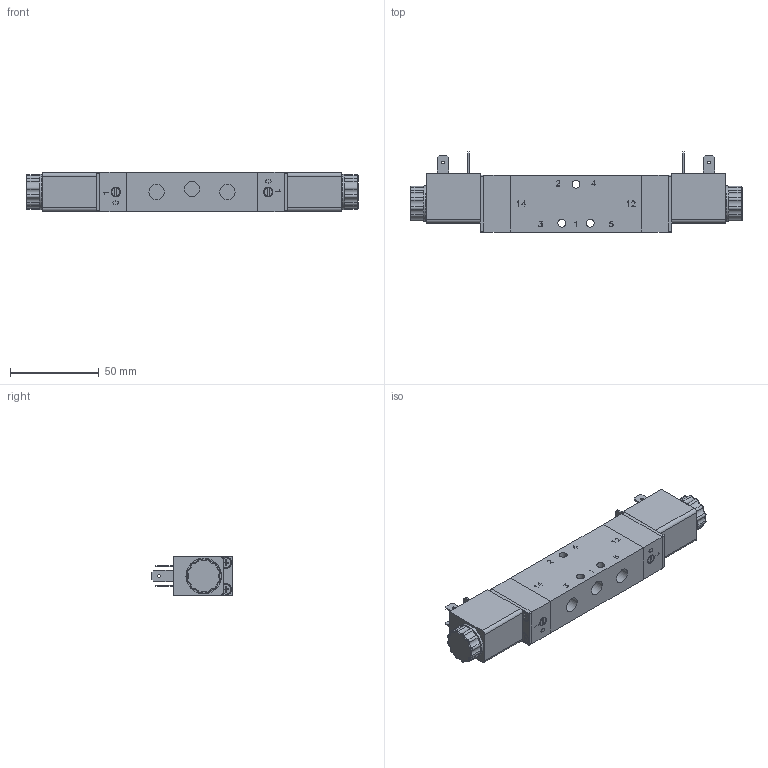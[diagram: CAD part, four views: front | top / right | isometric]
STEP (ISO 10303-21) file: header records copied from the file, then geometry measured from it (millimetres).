
FILE_DESCRIPTION (( 'STEP AP214' ), '1' );
FILE_NAME ('KMX-09-520-HN-F12_Airtec.step', '2020-06-19T14:35:01', ( '' ), ( '' ), 'SwSTEP 2.0', 'SolidWorks 2010', '' );
FILE_SCHEMA (( 'AUTOMOTIVE_DESIGN' ));
Length unit declared in the file: millimetre
Products named in the file (3): Volumenkörper3; Volumenkörper1; KMX-09-520-HN-F12_Airtec
Assembly tree (3 placements, depth 2):
  KMX-09-520-HN-F12_Airtec
    Volumenkörper1  x2
    Volumenkörper3
Bounding box: 187.2 x 45.2 x 22 mm (x, y, z)
Volume: 114782.5 mm3; surface area: 31647 mm2
Topology: 3 solids, 3 shells, 1081 faces, 2836 edges, 1834 vertices
Faces by surface type: plane 691, cylinder 162, cone 102, torus 98, bspline 28
Full cylindrical faces by diameter (mm): 1.5 x6, 2.459 x2, 2.693 x8, 3.4 x8, 4.5 x3, 5.5 x8, 8 x2, 8.15 x2, 8.566 x5, 9.04 x4, 15 x2, 16.6 x2, 20 x2
Entity records: 41678 total; most frequent: CARTESIAN_POINT 9724, ORIENTED_EDGE 5268, DIRECTION 4988, EDGE_CURVE 2634, LINE 1756, VECTOR 1756, VERTEX_POINT 1750, AXIS2_PLACEMENT_3D 1616
